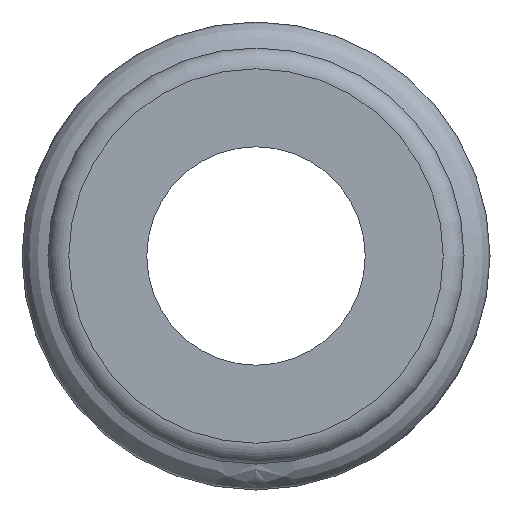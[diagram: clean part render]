
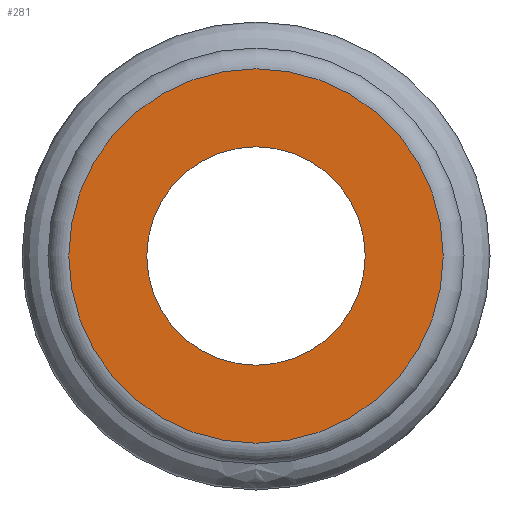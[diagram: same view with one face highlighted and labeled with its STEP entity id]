
A CAD part, left-side view. The second image highlights one B-rep face of the part: STEP entity #281.
In plain terms, the highlighted planar face has unit normal (-1, 0, 0).
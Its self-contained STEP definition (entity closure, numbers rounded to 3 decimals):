
#227=CARTESIAN_POINT('',(-29.,0.,1.8));
#228=VERTEX_POINT('',#227);
#229=CARTESIAN_POINT('',(-29.,0.0,0.0));
#230=DIRECTION('',(1.0,0.0,0.0));
#231=DIRECTION('',(0.0,0.0,-1.0));
#232=AXIS2_PLACEMENT_3D('',#229,#230,#231);
#233=CIRCLE('',#232,1.8);
#234=EDGE_CURVE('',#228,#228,#233,.T.);
#262=CARTESIAN_POINT('',(-29.,0.0,0.0));
#263=DIRECTION('',(1.0,0.0,0.0));
#264=DIRECTION('',(0.0,0.0,-1.0));
#265=AXIS2_PLACEMENT_3D('',#262,#263,#264);
#266=PLANE('',#265);
#267=ORIENTED_EDGE('',*,*,#234,.F.);
#268=EDGE_LOOP('',(#267));
#269=FACE_OUTER_BOUND('',#268,.T.);
#270=CARTESIAN_POINT('',(-29.,0.,1.05));
#271=VERTEX_POINT('',#270);
#272=CARTESIAN_POINT('',(-29.,0.0,0.0));
#273=DIRECTION('',(1.0,0.0,0.0));
#274=DIRECTION('',(0.0,0.0,-1.0));
#275=AXIS2_PLACEMENT_3D('',#272,#273,#274);
#276=CIRCLE('',#275,1.05);
#277=EDGE_CURVE('',#271,#271,#276,.T.);
#278=ORIENTED_EDGE('',*,*,#277,.T.);
#279=EDGE_LOOP('',(#278));
#280=FACE_BOUND('',#279,.T.);
#281=ADVANCED_FACE('',(#269,#280),#266,.F.);
